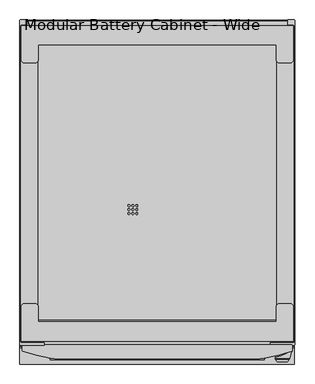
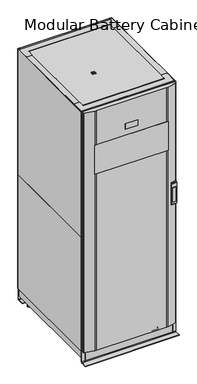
"""IFC4 building model written with IfcOpenShell, lengths in millimetres: proxy geometry, Modular_Battery_Cabinet_Wide_Galaxy_VM_Schneider_Electric_BIM_Model : Modular Battery Cabinet - Wide."""

from ifc_helpers import new_model, si_unit, point, frame, frame_2d, origin, place, context, project, spatial, polyline, circle_curve, trimmed, segment, composite_curve, outline, extrude, source, transform, mapped, element, save


def modular_battery_cabinet_wide_c1eef21c(model_context):
    return source(origin(), model_context, "Body", "SweptSolid", [
        extrude(outline(composite_curve([segment(polyline([(-287.0, -393.9954863), (-346.0, -393.9954863)]), True, "CONTINUOUS"), segment(trimmed(circle_curve(frame_2d((-346.0, -390.9954863)), 3.0), [point((-346.0, -393.9954863))], [point((-349.0, -390.9954863))], False, "CARTESIAN"), True, "CONTINUOUS"), segment(polyline([(-349.0, -390.9954863), (-349.0, 429.9032774)]), True, "CONTINUOUS"), segment(trimmed(circle_curve(frame_2d((-346.0, 429.9032774)), 3.0), [point((-349.0, 429.9032774))], [point((-346.0, 432.9032774))], False, "CARTESIAN"), True, "CONTINUOUS"), segment(polyline([(-346.0, 432.9032774), (-331.5, 432.9032774), (-331.5, 419.5937554), (-346.0, 419.5937554)]), True, "CONTINUOUS"), segment(trimmed(circle_curve(frame_2d((-346.0, 418.5937554)), 1.0), [point((-346.0, 419.5937554))], [point((-347.0, 418.5937554))], True, "CARTESIAN"), True, "CONTINUOUS"), segment(polyline([(-347.0, 418.5937554), (-347.0, -386.4062446)]), True, "CONTINUOUS"), segment(trimmed(circle_curve(frame_2d((-346.0, -386.4062446)), 1.0), [point((-347.0, -386.4062446))], [point((-346.0, -387.4062446))], True, "CARTESIAN"), True, "CONTINUOUS"), segment(polyline([(-346.0, -387.4062446), (-287.0, -387.4062446), (-287.0, -393.9954863)]), True, "CONTINUOUS")], self_intersect=False)), frame((0.0, 0.0, 984.5132886), z_axis=(0.0, 0.0, 1.0), x_axis=(1.0, 0.0, 0.0)), (0.0, 0.0, 1.0), 984.9867114),
        extrude(outline(composite_curve([segment(trimmed(circle_curve(frame_2d((282.9883937, 33.55)), 31.5), [point((314.473951, 34.5037722))], [point((251.5028364, 34.5037722))], False, "CARTESIAN"), True, "CONTINUOUS"), segment(polyline([(251.5028364, 34.5037722), (314.473951, 34.5037722)]), True, "CONTINUOUS")], self_intersect=False), holes=[composite_curve([segment(polyline([(313.2162838, 33.55), (311.2316316, 33.55)]), True, "CONTINUOUS"), segment(trimmed(circle_curve(frame_2d((282.9883937, 33.55)), 28.2432379), [point((311.2316316, 33.55))], [point((254.7451558, 33.55))], False, "CARTESIAN"), True, "CONTINUOUS"), segment(polyline([(254.7451558, 33.55), (252.7605036, 33.55)]), True, "CONTINUOUS"), segment(trimmed(circle_curve(frame_2d((282.9883937, 33.55)), 30.2278901), [point((252.7605036, 33.55))], [point((313.2162838, 33.55))], True, "CARTESIAN"), True, "CONTINUOUS")], self_intersect=False), composite_curve([segment(trimmed(circle_curve(frame_2d((282.9883937, 35.5)), 19.0), [point((301.5890489, 31.625))], [point((264.3877384, 31.625))], False, "CARTESIAN"), True, "CONTINUOUS"), segment(trimmed(circle_curve(frame_2d((282.9883937, 33.55)), 18.7), [point((264.3877384, 31.625))], [point((301.5890489, 31.625))], True, "CARTESIAN"), True, "CONTINUOUS")], self_intersect=False), composite_curve([segment(trimmed(circle_curve(frame_2d((282.9883937, 33.55)), 5.0), [point((287.9680062, 34.0010648))], [point((278.0087812, 34.0010648))], False, "CARTESIAN"), True, "CONTINUOUS"), segment(polyline([(278.0087812, 34.0010648), (271.2470547, 34.0010648)]), True, "CONTINUOUS"), segment(trimmed(circle_curve(frame_2d((282.9883937, 33.55)), 11.75), [point((271.2470547, 34.0010648))], [point((294.7297326, 34.0010648))], True, "CARTESIAN"), True, "CONTINUOUS"), segment(polyline([(294.7297326, 34.0010648), (287.9680062, 34.0010648)]), True, "CONTINUOUS")], self_intersect=False)]), frame((-262.9573706, 0.0, 0.0), z_axis=(1.0, 0.0, 0.0), x_axis=(0.0, 1.0, 0.0)), (0.0, 0.0, 1.0), 44.4573706),
        extrude(outline(composite_curve([segment(trimmed(circle_curve(frame_2d((283.0140409, 33.55)), 31.5), [point((314.4995982, 34.5037722))], [point((251.5284836, 34.5037722))], False, "CARTESIAN"), True, "CONTINUOUS"), segment(polyline([(251.5284836, 34.5037722), (314.4995982, 34.5037722)]), True, "CONTINUOUS")], self_intersect=False), holes=[composite_curve([segment(polyline([(313.241931, 33.55), (311.2572788, 33.55)]), True, "CONTINUOUS"), segment(trimmed(circle_curve(frame_2d((283.0140409, 33.55)), 28.2432379), [point((311.2572788, 33.55))], [point((254.770803, 33.55))], False, "CARTESIAN"), True, "CONTINUOUS"), segment(polyline([(254.770803, 33.55), (252.7861508, 33.55)]), True, "CONTINUOUS"), segment(trimmed(circle_curve(frame_2d((283.0140409, 33.55)), 30.2278901), [point((252.7861508, 33.55))], [point((313.241931, 33.55))], True, "CARTESIAN"), True, "CONTINUOUS")], self_intersect=False), composite_curve([segment(trimmed(circle_curve(frame_2d((283.0140409, 35.5)), 19.0), [point((301.6146961, 31.625))], [point((264.4133856, 31.625))], False, "CARTESIAN"), True, "CONTINUOUS"), segment(trimmed(circle_curve(frame_2d((283.0140409, 33.55)), 18.7), [point((264.4133856, 31.625))], [point((301.6146961, 31.625))], True, "CARTESIAN"), True, "CONTINUOUS")], self_intersect=False), composite_curve([segment(trimmed(circle_curve(frame_2d((283.0140409, 33.55)), 5.0), [point((287.9936534, 34.0010648))], [point((278.0344284, 34.0010648))], False, "CARTESIAN"), True, "CONTINUOUS"), segment(polyline([(278.0344284, 34.0010648), (271.2727019, 34.0010648)]), True, "CONTINUOUS"), segment(trimmed(circle_curve(frame_2d((283.0140409, 33.55)), 11.75), [point((271.2727019, 34.0010648))], [point((294.7553798, 34.0010648))], True, "CARTESIAN"), True, "CONTINUOUS"), segment(polyline([(294.7553798, 34.0010648), (287.9936534, 34.0010648)]), True, "CONTINUOUS")], self_intersect=False)]), frame((218.3551294, 0.0, 0.0), z_axis=(1.0, 0.0, 0.0), x_axis=(0.0, 1.0, 0.0)), (0.0, 0.0, 1.0), 44.4573706),
        extrude(outline(composite_curve([segment(polyline([(-340.0989401, 34.5037722), (-277.1278255, 34.5037722)]), True, "CONTINUOUS"), segment(trimmed(circle_curve(frame_2d((-308.6133828, 33.55)), 31.5), [point((-277.1278255, 34.5037722))], [point((-340.0989401, 34.5037722))], False, "CARTESIAN"), True, "CONTINUOUS")], self_intersect=False), holes=[composite_curve([segment(trimmed(circle_curve(frame_2d((-308.6133828, 33.55)), 30.2278901), [point((-338.8412729, 33.55))], [point((-278.3854927, 33.55))], True, "CARTESIAN"), True, "CONTINUOUS"), segment(polyline([(-278.3854927, 33.55), (-280.3701449, 33.55)]), True, "CONTINUOUS"), segment(trimmed(circle_curve(frame_2d((-308.6133828, 33.55)), 28.2432379), [point((-280.3701449, 33.55))], [point((-336.8566207, 33.55))], False, "CARTESIAN"), True, "CONTINUOUS"), segment(polyline([(-336.8566207, 33.55), (-338.8412729, 33.55)]), True, "CONTINUOUS")], self_intersect=False), composite_curve([segment(trimmed(circle_curve(frame_2d((-308.6133828, 33.55)), 18.7), [point((-327.214038, 31.625))], [point((-290.0127276, 31.625))], True, "CARTESIAN"), True, "CONTINUOUS"), segment(trimmed(circle_curve(frame_2d((-308.6133828, 35.5)), 19.0), [point((-290.0127276, 31.625))], [point((-327.214038, 31.625))], False, "CARTESIAN"), True, "CONTINUOUS")], self_intersect=False), composite_curve([segment(polyline([(-313.5929953, 34.0010648), (-320.3547217, 34.0010648)]), True, "CONTINUOUS"), segment(trimmed(circle_curve(frame_2d((-308.6133828, 33.55)), 11.75), [point((-320.3547217, 34.0010648))], [point((-296.8720438, 34.0010648))], True, "CARTESIAN"), True, "CONTINUOUS"), segment(polyline([(-296.8720438, 34.0010648), (-303.6337703, 34.0010648)]), True, "CONTINUOUS"), segment(trimmed(circle_curve(frame_2d((-308.6133828, 33.55)), 5.0), [point((-303.6337703, 34.0010648))], [point((-313.5929953, 34.0010648))], False, "CARTESIAN"), True, "CONTINUOUS")], self_intersect=False)]), frame((-262.9573706, 0.0, 0.0), z_axis=(1.0, 0.0, 0.0), x_axis=(0.0, 1.0, 0.0)), (0.0, 0.0, 1.0), 44.4573706),
        extrude(outline(composite_curve([segment(polyline([(-340.1245873, 34.5037722), (-277.1534727, 34.5037722)]), True, "CONTINUOUS"), segment(trimmed(circle_curve(frame_2d((-308.63903, 33.55)), 31.5), [point((-277.1534727, 34.5037722))], [point((-340.1245873, 34.5037722))], False, "CARTESIAN"), True, "CONTINUOUS")], self_intersect=False), holes=[composite_curve([segment(trimmed(circle_curve(frame_2d((-308.63903, 33.55)), 30.2278901), [point((-338.8669201, 33.55))], [point((-278.4111399, 33.55))], True, "CARTESIAN"), True, "CONTINUOUS"), segment(polyline([(-278.4111399, 33.55), (-280.3957921, 33.55)]), True, "CONTINUOUS"), segment(trimmed(circle_curve(frame_2d((-308.63903, 33.55)), 28.2432379), [point((-280.3957921, 33.55))], [point((-336.8822679, 33.55))], False, "CARTESIAN"), True, "CONTINUOUS"), segment(polyline([(-336.8822679, 33.55), (-338.8669201, 33.55)]), True, "CONTINUOUS")], self_intersect=False), composite_curve([segment(trimmed(circle_curve(frame_2d((-308.63903, 33.55)), 18.7), [point((-327.2396852, 31.625))], [point((-290.0383748, 31.625))], True, "CARTESIAN"), True, "CONTINUOUS"), segment(trimmed(circle_curve(frame_2d((-308.63903, 35.5)), 19.0), [point((-290.0383748, 31.625))], [point((-327.2396852, 31.625))], False, "CARTESIAN"), True, "CONTINUOUS")], self_intersect=False), composite_curve([segment(polyline([(-313.6186425, 34.0010648), (-320.3803689, 34.0010648)]), True, "CONTINUOUS"), segment(trimmed(circle_curve(frame_2d((-308.63903, 33.55)), 11.75), [point((-320.3803689, 34.0010648))], [point((-296.897691, 34.0010648))], True, "CARTESIAN"), True, "CONTINUOUS"), segment(polyline([(-296.897691, 34.0010648), (-303.6594175, 34.0010648)]), True, "CONTINUOUS"), segment(trimmed(circle_curve(frame_2d((-308.63903, 33.55)), 5.0), [point((-303.6594175, 34.0010648))], [point((-313.6186425, 34.0010648))], False, "CARTESIAN"), True, "CONTINUOUS")], self_intersect=False)]), frame((218.3551294, 0.0, 0.0), z_axis=(1.0, 0.0, 0.0), x_axis=(0.0, 1.0, 0.0)), (0.0, 0.0, 1.0), 44.4573706),
        extrude(outline(composite_curve([segment(trimmed(circle_curve(frame_2d((-340.5, -406.4999946)), 2.5), [point((-341.3593102, -408.8476713))], [point((-343.0, -406.4999946))], False, "CARTESIAN"), True, "CONTINUOUS"), segment(polyline([(-343.0, -406.4999946), (-343.0, -395.4999946)]), True, "CONTINUOUS"), segment(trimmed(circle_curve(frame_2d((-340.5, -395.4999946)), 2.5), [point((-343.0, -395.4999946))], [point((-340.5, -392.9999946))], False, "CARTESIAN"), True, "CONTINUOUS"), segment(polyline([(-340.5, -392.9999946), (342.5, -392.9999946)]), True, "CONTINUOUS"), segment(trimmed(circle_curve(frame_2d((342.5, -395.4999946)), 2.5), [point((342.5, -392.9999946))], [point((345.0, -395.4999946))], False, "CARTESIAN"), True, "CONTINUOUS"), segment(polyline([(345.0, -395.4999946), (345.0, -406.4999946)]), True, "CONTINUOUS"), segment(trimmed(circle_curve(frame_2d((342.5, -406.4999946)), 2.5), [point((345.0, -406.4999946))], [point((343.3593102, -408.8476713))], False, "CARTESIAN"), True, "CONTINUOUS"), segment(trimmed(circle_curve(frame_2d((225.461945, -86.7464275)), 343.0), [point((343.3593102, -408.8476713))], [point((272.2295665, -426.543116))], False, "CARTESIAN"), True, "CONTINUOUS"), segment(polyline([(272.2295665, -426.543116), (262.3229575, -427.9066036)]), True, "CONTINUOUS"), segment(trimmed(circle_curve(frame_2d((260.95947, -417.9999946)), 10.0), [point((262.3229575, -427.9066036))], [point((260.95947, -427.9999946))], False, "CARTESIAN"), True, "CONTINUOUS"), segment(polyline([(260.95947, -427.9999946), (-258.95947, -427.9999946)]), True, "CONTINUOUS"), segment(trimmed(circle_curve(frame_2d((-258.95947, -417.9999946)), 10.0), [point((-258.95947, -427.9999946))], [point((-260.3229575, -427.9066036))], False, "CARTESIAN"), True, "CONTINUOUS"), segment(polyline([(-260.3229575, -427.9066036), (-270.2295665, -426.543116)]), True, "CONTINUOUS"), segment(trimmed(circle_curve(frame_2d((-223.461945, -86.7464275)), 343.0), [point((-270.2295665, -426.543116))], [point((-341.3593102, -408.8476713))], False, "CARTESIAN"), True, "CONTINUOUS")], self_intersect=False)), frame((0.0, 0.0, 87.0), z_axis=(0.0, 0.0, 1.0), x_axis=(1.0, 0.0, 0.0)), (0.0, 0.0, 1.0), 1883.0),
        extrude(outline(composite_curve([segment(polyline([(289.0, -393.9954863), (289.0, -387.4062446), (348.0, -387.4062446)]), True, "CONTINUOUS"), segment(trimmed(circle_curve(frame_2d((348.0, -386.4062446)), 1.0), [point((348.0, -387.4062446))], [point((349.0, -386.4062446))], True, "CARTESIAN"), True, "CONTINUOUS"), segment(polyline([(349.0, -386.4062446), (349.0, 418.5937554)]), True, "CONTINUOUS"), segment(trimmed(circle_curve(frame_2d((348.0, 418.5937554)), 1.0), [point((349.0, 418.5937554))], [point((348.0, 419.5937554))], True, "CARTESIAN"), True, "CONTINUOUS"), segment(polyline([(348.0, 419.5937554), (333.5, 419.5937554), (333.5, 432.9032774), (348.0, 432.9032774)]), True, "CONTINUOUS"), segment(trimmed(circle_curve(frame_2d((348.0, 429.9032774)), 3.0), [point((348.0, 432.9032774))], [point((351.0, 429.9032774))], False, "CARTESIAN"), True, "CONTINUOUS"), segment(polyline([(351.0, 429.9032774), (351.0, -390.9954863)]), True, "CONTINUOUS"), segment(trimmed(circle_curve(frame_2d((348.0, -390.9954863)), 3.0), [point((351.0, -390.9954863))], [point((348.0, -393.9954863))], False, "CARTESIAN"), True, "CONTINUOUS"), segment(polyline([(348.0, -393.9954863), (289.0, -393.9954863)]), True, "CONTINUOUS")], self_intersect=False)), frame((0.0, 0.0, 984.5132886), z_axis=(0.0, 0.0, 1.0), x_axis=(1.0, 0.0, 0.0)), (0.0, 0.0, 1.0), 984.9867114),
        extrude(outline(polyline([(48.1483947, -419.9999946), (46.7495834, -428.5371612), (-44.5955575, -428.5371612), (-45.9943688, -419.9999946), (48.1483947, -419.9999946)])), frame((0.0, 0.0, 1750.6), z_axis=(0.0, 0.0, 1.0), x_axis=(1.0, 0.0, 0.0)), (0.0, 0.0, 1.0), 42.6),
        extrude(outline(polyline([(273.2655071, -428.0335818), (273.2655071, -430.0335818), (-271.4640594, -430.0335818), (-271.4640594, -428.0335818), (273.2655071, -428.0335818)])), frame((0.0, 0.0, 1477.4), z_axis=(0.0, 0.0, 1.0), x_axis=(1.0, 0.0, 0.0)), (0.0, 0.0, 1.0), 227.0),
        extrude(outline(polyline([(339.4328833, 431.8125054), (339.4328833, 430.8125054), (-336.5, 430.8125054), (-336.5, 431.8125054), (339.4328833, 431.8125054)])), frame((0.0, 0.0, 87.0), z_axis=(0.0, 0.0, 1.0), x_axis=(1.0, 0.0, 0.0)), (0.0, 0.0, 1.0), 1883.0),
        extrude(outline(composite_curve([segment(polyline([(-287.0, -392.9279748), (-346.0, -392.9279748)]), True, "CONTINUOUS"), segment(trimmed(circle_curve(frame_2d((-346.0, -389.9279748)), 3.0), [point((-346.0, -392.9279748))], [point((-349.0, -389.9279748))], False, "CARTESIAN"), True, "CONTINUOUS"), segment(polyline([(-349.0, -389.9279748), (-349.0, 429.9745566)]), True, "CONTINUOUS"), segment(trimmed(circle_curve(frame_2d((-346.0, 429.9745566)), 3.0), [point((-349.0, 429.9745566))], [point((-346.0, 432.9745566))], False, "CARTESIAN"), True, "CONTINUOUS"), segment(polyline([(-346.0, 432.9745566), (-331.5, 432.9745566), (-331.5, 419.5937554), (-346.0, 419.5937554)]), True, "CONTINUOUS"), segment(trimmed(circle_curve(frame_2d((-346.0, 418.5937554)), 1.0), [point((-346.0, 419.5937554))], [point((-347.0, 418.5937554))], True, "CARTESIAN"), True, "CONTINUOUS"), segment(polyline([(-347.0, 418.5937554), (-347.0, -386.4062446)]), True, "CONTINUOUS"), segment(trimmed(circle_curve(frame_2d((-346.0, -386.4062446)), 1.0), [point((-347.0, -386.4062446))], [point((-346.0, -387.4062446))], True, "CARTESIAN"), True, "CONTINUOUS"), segment(polyline([(-346.0, -387.4062446), (-287.0, -387.4062446), (-287.0, -392.9279748)]), True, "CONTINUOUS")], self_intersect=False)), frame((0.0, 0.0, 87.0), z_axis=(0.0, 0.0, 1.0), x_axis=(1.0, 0.0, 0.0)), (0.0, 0.0, 1.0), 897.0),
        extrude(outline(composite_curve([segment(polyline([(289.0, -392.8523013), (289.0, -387.4062446), (348.0, -387.4062446)]), True, "CONTINUOUS"), segment(trimmed(circle_curve(frame_2d((348.0, -386.4062446)), 1.0), [point((348.0, -387.4062446))], [point((349.0, -386.4062446))], True, "CARTESIAN"), True, "CONTINUOUS"), segment(polyline([(349.0, -386.4062446), (349.0, 418.5937554)]), True, "CONTINUOUS"), segment(trimmed(circle_curve(frame_2d((348.0, 418.5937554)), 1.0), [point((349.0, 418.5937554))], [point((348.0, 419.5937554))], True, "CARTESIAN"), True, "CONTINUOUS"), segment(polyline([(348.0, 419.5937554), (333.5, 419.5937554), (333.5, 432.9042309), (348.0, 432.9042309)]), True, "CONTINUOUS"), segment(trimmed(circle_curve(frame_2d((348.0, 429.9042309)), 3.0), [point((348.0, 432.9042309))], [point((351.0, 429.9042309))], False, "CARTESIAN"), True, "CONTINUOUS"), segment(polyline([(351.0, 429.9042309), (351.0, -389.8523013)]), True, "CONTINUOUS"), segment(trimmed(circle_curve(frame_2d((348.0, -389.8523013)), 3.0), [point((351.0, -389.8523013))], [point((348.0, -392.8523013))], False, "CARTESIAN"), True, "CONTINUOUS"), segment(polyline([(348.0, -392.8523013), (289.0, -392.8523013)]), True, "CONTINUOUS")], self_intersect=False)), frame((0.0, 0.0, 87.0), z_axis=(0.0, 0.0, 1.0), x_axis=(1.0, 0.0, 0.0)), (0.0, 0.0, 1.0), 897.0),
        extrude(outline(composite_curve([segment(polyline([(339.7790562, -377.4999946), (334.0055535, -387.4999946)]), True, "CONTINUOUS"), segment(trimmed(circle_curve(frame_2d((332.2735027, -386.4999946)), 2.0), [point((334.0055535, -387.4999946))], [point((332.2735027, -388.4999946))], False, "CARTESIAN"), True, "CONTINUOUS"), segment(polyline([(332.2735027, -388.4999946), (320.7264973, -388.4999946)]), True, "CONTINUOUS"), segment(trimmed(circle_curve(frame_2d((320.7264973, -386.4999946)), 2.0), [point((320.7264973, -388.4999946))], [point((318.9944465, -387.4999946))], False, "CARTESIAN"), True, "CONTINUOUS"), segment(polyline([(318.9944465, -387.4999946), (313.2209438, -377.4999946)]), True, "CONTINUOUS"), segment(trimmed(circle_curve(frame_2d((314.9529946, -376.4999946)), 2.0), [point((313.2209438, -377.4999946))], [point((313.2209438, -375.4999946))], False, "CARTESIAN"), True, "CONTINUOUS"), segment(polyline([(313.2209438, -375.4999946), (318.9944465, -365.4999946)]), True, "CONTINUOUS"), segment(trimmed(circle_curve(frame_2d((320.7264973, -366.4999946)), 2.0), [point((318.9944465, -365.4999946))], [point((320.7264973, -364.4999946))], False, "CARTESIAN"), True, "CONTINUOUS"), segment(polyline([(320.7264973, -364.4999946), (332.2735027, -364.4999946)]), True, "CONTINUOUS"), segment(trimmed(circle_curve(frame_2d((332.2735027, -366.4999946)), 2.0), [point((332.2735027, -364.4999946))], [point((334.0055535, -365.4999946))], False, "CARTESIAN"), True, "CONTINUOUS"), segment(polyline([(334.0055535, -365.4999946), (339.7790562, -375.4999946)]), True, "CONTINUOUS"), segment(trimmed(circle_curve(frame_2d((338.0470054, -376.4999946)), 2.0), [point((339.7790562, -375.4999946))], [point((339.7790562, -377.4999946))], False, "CARTESIAN"), True, "CONTINUOUS")], self_intersect=False), holes=[composite_curve([segment(trimmed(circle_curve(frame_2d((326.5, -376.4999946)), 11.0), [point((315.5, -376.4999946))], [point((337.5, -376.4999946))], True, "CARTESIAN"), True, "CONTINUOUS"), segment(trimmed(circle_curve(frame_2d((326.5, -376.4999946)), 11.0), [point((337.5, -376.4999946))], [point((315.5, -376.4999946))], True, "CARTESIAN"), True, "CONTINUOUS")], self_intersect=False)]), frame((0.0, 0.0, 2.5), z_axis=(0.0, 0.0, 1.0), x_axis=(1.0, 0.0, 0.0)), (0.0, 0.0, 1.0), 80.0),
        extrude(outline(composite_curve([segment(polyline([(-311.2209438, -377.4999946), (-316.9944465, -387.4999946)]), True, "CONTINUOUS"), segment(trimmed(circle_curve(frame_2d((-318.7264973, -386.4999946)), 2.0), [point((-316.9944465, -387.4999946))], [point((-318.7264973, -388.4999946))], False, "CARTESIAN"), True, "CONTINUOUS"), segment(polyline([(-318.7264973, -388.4999946), (-330.2735027, -388.4999946)]), True, "CONTINUOUS"), segment(trimmed(circle_curve(frame_2d((-330.2735027, -386.4999946)), 2.0), [point((-330.2735027, -388.4999946))], [point((-332.0055535, -387.4999946))], False, "CARTESIAN"), True, "CONTINUOUS"), segment(polyline([(-332.0055535, -387.4999946), (-337.7790562, -377.4999946)]), True, "CONTINUOUS"), segment(trimmed(circle_curve(frame_2d((-336.0470054, -376.4999946)), 2.0), [point((-337.7790562, -377.4999946))], [point((-337.7790562, -375.4999946))], False, "CARTESIAN"), True, "CONTINUOUS"), segment(polyline([(-337.7790562, -375.4999946), (-332.0055535, -365.4999946)]), True, "CONTINUOUS"), segment(trimmed(circle_curve(frame_2d((-330.2735027, -366.4999946)), 2.0), [point((-332.0055535, -365.4999946))], [point((-330.2735027, -364.4999946))], False, "CARTESIAN"), True, "CONTINUOUS"), segment(polyline([(-330.2735027, -364.4999946), (-318.7264973, -364.4999946)]), True, "CONTINUOUS"), segment(trimmed(circle_curve(frame_2d((-318.7264973, -366.4999946)), 2.0), [point((-318.7264973, -364.4999946))], [point((-316.9944465, -365.4999946))], False, "CARTESIAN"), True, "CONTINUOUS"), segment(polyline([(-316.9944465, -365.4999946), (-311.2209438, -375.4999946)]), True, "CONTINUOUS"), segment(trimmed(circle_curve(frame_2d((-312.9529946, -376.4999946)), 2.0), [point((-311.2209438, -375.4999946))], [point((-311.2209438, -377.4999946))], False, "CARTESIAN"), True, "CONTINUOUS")], self_intersect=False), holes=[composite_curve([segment(trimmed(circle_curve(frame_2d((-324.5, -376.4999946)), 11.0), [point((-335.5, -376.4999946))], [point((-313.5, -376.4999946))], True, "CARTESIAN"), True, "CONTINUOUS"), segment(trimmed(circle_curve(frame_2d((-324.5, -376.4999946)), 11.0), [point((-313.5, -376.4999946))], [point((-335.5, -376.4999946))], True, "CARTESIAN"), True, "CONTINUOUS")], self_intersect=False)]), frame((0.0, 0.0, 2.5), z_axis=(0.0, 0.0, 1.0), x_axis=(1.0, 0.0, 0.0)), (0.0, 0.0, 1.0), 80.0),
        extrude(outline(composite_curve([segment(polyline([(339.7790562, 324.1579781), (334.0055535, 314.1579781)]), True, "CONTINUOUS"), segment(trimmed(circle_curve(frame_2d((332.2735027, 315.1579781)), 2.0), [point((334.0055535, 314.1579781))], [point((332.2735027, 313.1579781))], False, "CARTESIAN"), True, "CONTINUOUS"), segment(polyline([(332.2735027, 313.1579781), (320.7264973, 313.1579781)]), True, "CONTINUOUS"), segment(trimmed(circle_curve(frame_2d((320.7264973, 315.1579781)), 2.0), [point((320.7264973, 313.1579781))], [point((318.9944465, 314.1579781))], False, "CARTESIAN"), True, "CONTINUOUS"), segment(polyline([(318.9944465, 314.1579781), (313.2209438, 324.1579781)]), True, "CONTINUOUS"), segment(trimmed(circle_curve(frame_2d((314.9529946, 325.1579781)), 2.0), [point((313.2209438, 324.1579781))], [point((313.2209438, 326.1579781))], False, "CARTESIAN"), True, "CONTINUOUS"), segment(polyline([(313.2209438, 326.1579781), (318.9944465, 336.1579781)]), True, "CONTINUOUS"), segment(trimmed(circle_curve(frame_2d((320.7264973, 335.1579781)), 2.0), [point((318.9944465, 336.1579781))], [point((320.7264973, 337.1579781))], False, "CARTESIAN"), True, "CONTINUOUS"), segment(polyline([(320.7264973, 337.1579781), (332.2735027, 337.1579781)]), True, "CONTINUOUS"), segment(trimmed(circle_curve(frame_2d((332.2735027, 335.1579781)), 2.0), [point((332.2735027, 337.1579781))], [point((334.0055535, 336.1579781))], False, "CARTESIAN"), True, "CONTINUOUS"), segment(polyline([(334.0055535, 336.1579781), (339.7790562, 326.1579781)]), True, "CONTINUOUS"), segment(trimmed(circle_curve(frame_2d((338.0470054, 325.1579781)), 2.0), [point((339.7790562, 326.1579781))], [point((339.7790562, 324.1579781))], False, "CARTESIAN"), True, "CONTINUOUS")], self_intersect=False), holes=[composite_curve([segment(trimmed(circle_curve(frame_2d((326.5, 325.1579781)), 11.0), [point((315.5, 325.1579781))], [point((337.5, 325.1579781))], True, "CARTESIAN"), True, "CONTINUOUS"), segment(trimmed(circle_curve(frame_2d((326.5, 325.1579781)), 11.0), [point((337.5, 325.1579781))], [point((315.5, 325.1579781))], True, "CARTESIAN"), True, "CONTINUOUS")], self_intersect=False)]), frame((0.0, 0.0, 2.5), z_axis=(0.0, 0.0, 1.0), x_axis=(1.0, 0.0, 0.0)), (0.0, 0.0, 1.0), 80.0),
        extrude(outline(composite_curve([segment(polyline([(-311.2209438, 324.1579781), (-316.9944465, 314.1579781)]), True, "CONTINUOUS"), segment(trimmed(circle_curve(frame_2d((-318.7264973, 315.1579781)), 2.0), [point((-316.9944465, 314.1579781))], [point((-318.7264973, 313.1579781))], False, "CARTESIAN"), True, "CONTINUOUS"), segment(polyline([(-318.7264973, 313.1579781), (-330.2735027, 313.1579781)]), True, "CONTINUOUS"), segment(trimmed(circle_curve(frame_2d((-330.2735027, 315.1579781)), 2.0), [point((-330.2735027, 313.1579781))], [point((-332.0055535, 314.1579781))], False, "CARTESIAN"), True, "CONTINUOUS"), segment(polyline([(-332.0055535, 314.1579781), (-337.7790562, 324.1579781)]), True, "CONTINUOUS"), segment(trimmed(circle_curve(frame_2d((-336.0470054, 325.1579781)), 2.0), [point((-337.7790562, 324.1579781))], [point((-337.7790562, 326.1579781))], False, "CARTESIAN"), True, "CONTINUOUS"), segment(polyline([(-337.7790562, 326.1579781), (-332.0055535, 336.1579781)]), True, "CONTINUOUS"), segment(trimmed(circle_curve(frame_2d((-330.2735027, 335.1579781)), 2.0), [point((-332.0055535, 336.1579781))], [point((-330.2735027, 337.1579781))], False, "CARTESIAN"), True, "CONTINUOUS"), segment(polyline([(-330.2735027, 337.1579781), (-318.7264973, 337.1579781)]), True, "CONTINUOUS"), segment(trimmed(circle_curve(frame_2d((-318.7264973, 335.1579781)), 2.0), [point((-318.7264973, 337.1579781))], [point((-316.9944465, 336.1579781))], False, "CARTESIAN"), True, "CONTINUOUS"), segment(polyline([(-316.9944465, 336.1579781), (-311.2209438, 326.1579781)]), True, "CONTINUOUS"), segment(trimmed(circle_curve(frame_2d((-312.9529946, 325.1579781)), 2.0), [point((-311.2209438, 326.1579781))], [point((-311.2209438, 324.1579781))], False, "CARTESIAN"), True, "CONTINUOUS")], self_intersect=False), holes=[composite_curve([segment(trimmed(circle_curve(frame_2d((-324.5, 325.1579781)), 11.0), [point((-335.5, 325.1579781))], [point((-313.5, 325.1579781))], True, "CARTESIAN"), True, "CONTINUOUS"), segment(trimmed(circle_curve(frame_2d((-324.5, 325.1579781)), 11.0), [point((-313.5, 325.1579781))], [point((-335.5, 325.1579781))], True, "CARTESIAN"), True, "CONTINUOUS")], self_intersect=False)]), frame((0.0, 0.0, 2.5), z_axis=(0.0, 0.0, 1.0), x_axis=(1.0, 0.0, 0.0)), (0.0, 0.0, 1.0), 80.0),
        extrude(outline(composite_curve([segment(polyline([(416.1467203, 0.0), (373.1579781, 0.0), (373.1579781, 4.0), (416.1467203, 4.0)]), True, "CONTINUOUS"), segment(trimmed(circle_curve(frame_2d((416.1467203, 8.0)), 4.0), [point((416.1467203, 4.0))], [point((420.1467203, 8.0))], True, "CARTESIAN"), True, "CONTINUOUS"), segment(polyline([(420.1467203, 8.0), (420.1467203, 89.0), (424.1467203, 89.0), (424.1467203, 8.0)]), True, "CONTINUOUS"), segment(trimmed(circle_curve(frame_2d((416.1467203, 8.0)), 8.0), [point((424.1467203, 8.0))], [point((416.1467203, 0.0))], False, "CARTESIAN"), True, "CONTINUOUS")], self_intersect=False)), frame((-349.0, 0.0, 0.0), z_axis=(1.0, 0.0, 0.0), x_axis=(0.0, 1.0, 0.0)), (0.0, 0.0, 1.0), 698.0),
        extrude(outline(polyline([(306.6070129, -434.9598318), (301.6519069, -429.0398318), (337.2270129, -429.0398318), (332.1970129, -434.9598318), (306.6070129, -434.9598318)])), frame((0.0, 0.0, 1060.0), z_axis=(0.0, 0.0, 1.0), x_axis=(1.0, 0.0, 0.0)), (0.0, 0.0, 1.0), 109.64),
        extrude(outline(polyline([(337.2270129, -426.0398318), (337.2270129, -429.0398318), (301.6519069, -429.0398318), (301.6519069, -426.0398318), (337.2270129, -426.0398318)])), frame((0.0, 0.0, 1039.417327), z_axis=(0.0, 0.0, 1.0), x_axis=(1.0, 0.0, 0.0)), (0.0, 0.0, 1.0), 160.2226701),
        extrude(outline(composite_curve([segment(polyline([(337.4728784, -426.0398318), (301.6519069, -426.0398318), (301.6519069, -423.8366136)]), True, "CONTINUOUS"), segment(trimmed(circle_curve(frame_2d((284.5186284, -325.0184002)), 100.2925149), [point((301.6519069, -423.8366136))], [point((343.575392, -406.0794094))], True, "CARTESIAN"), True, "CONTINUOUS"), segment(polyline([(343.575392, -406.0794094), (337.4728784, -426.0398318)]), True, "CONTINUOUS")], self_intersect=False)), frame((0.0, 0.0, 1033.4719298), z_axis=(0.0, 0.0, 1.0), x_axis=(1.0, 0.0, 0.0)), (0.0, 0.0, 1.0), 172.3561403),
        extrude(outline(composite_curve([segment(polyline([(-399.8420219, 0.0), (-441.8420219, 0.0), (-441.8420219, 4.0), (-399.8420219, 4.0)]), True, "CONTINUOUS"), segment(trimmed(circle_curve(frame_2d((-399.8420219, 8.0)), 4.0), [point((-399.8420219, 4.0))], [point((-395.8420219, 8.0))], True, "CARTESIAN"), True, "CONTINUOUS"), segment(polyline([(-395.8420219, 8.0), (-395.8420219, 87.0), (-391.8420219, 87.0), (-391.8420219, 8.0)]), True, "CONTINUOUS"), segment(trimmed(circle_curve(frame_2d((-399.8420219, 8.0)), 8.0), [point((-391.8420219, 8.0))], [point((-399.8420219, 0.0))], False, "CARTESIAN"), True, "CONTINUOUS")], self_intersect=False)), frame((-349.0, 0.0, 0.0), z_axis=(1.0, 0.0, 0.0), x_axis=(0.0, 1.0, 0.0)), (0.0, 0.0, 1.0), 698.0),
        extrude(outline(polyline([(-340.5, -288.9999946), (-307.0, -288.9999946), (-302.0, -293.9999946), (-302.0, -333.9999946), (304.0, -333.9999946), (304.0, -293.9999946), (309.0, -288.9999946), (342.5, -288.9999946), (347.5, -293.9999946), (347.5, -382.9999946), (-345.5, -382.9999946), (-345.5, -293.9999946), (-340.5, -288.9999946)])), frame((0.0, 0.0, 1965.0), z_axis=(0.0, 0.0, 1.0), x_axis=(1.0, 0.0, 0.0)), (0.0, 0.0, 1.0), 5.0),
        extrude(outline(polyline([(-340.5, 324.0000054), (-345.5, 329.0000054), (-345.5, 418.0000054), (347.5, 418.0000054), (347.5, 329.0000054), (342.5, 324.0000054), (309.0, 324.0000054), (304.0, 329.0000054), (304.0, 369.0000054), (-302.0, 369.0000054), (-302.0, 329.0000054), (-307.0, 324.0000054), (-340.5, 324.0000054)])), frame((0.0, 0.0, 1965.0), z_axis=(0.0, 0.0, 1.0), x_axis=(1.0, 0.0, 0.0)), (0.0, 0.0, 1.0), 5.0),
        extrude(outline(polyline([(304.0, 374.0000054), (304.0, -328.9999946), (-302.0, -328.9999946), (-302.0, 374.0000054), (304.0, 374.0000054)]), holes=[composite_curve([segment(trimmed(circle_curve(frame_2d((-71.0666353, -39.2766072)), 2.5), [point((-73.5666353, -39.2766072))], [point((-68.5666353, -39.2766072))], True, "CARTESIAN"), True, "CONTINUOUS"), segment(trimmed(circle_curve(frame_2d((-71.0666353, -39.2766072)), 2.5), [point((-68.5666353, -39.2766072))], [point((-73.5666353, -39.2766072))], True, "CARTESIAN"), True, "CONTINUOUS")], self_intersect=False), composite_curve([segment(trimmed(circle_curve(frame_2d((-61.0666353, -39.2766072)), 2.5), [point((-63.5666353, -39.2766072))], [point((-58.5666353, -39.2766072))], True, "CARTESIAN"), True, "CONTINUOUS"), segment(trimmed(circle_curve(frame_2d((-61.0666353, -39.2766072)), 2.5), [point((-58.5666353, -39.2766072))], [point((-63.5666353, -39.2766072))], True, "CARTESIAN"), True, "CONTINUOUS")], self_intersect=False), composite_curve([segment(trimmed(circle_curve(frame_2d((-51.0666353, -39.2766072)), 2.5), [point((-53.5666353, -39.2766072))], [point((-48.5666353, -39.2766072))], True, "CARTESIAN"), True, "CONTINUOUS"), segment(trimmed(circle_curve(frame_2d((-51.0666353, -39.2766072)), 2.5), [point((-48.5666353, -39.2766072))], [point((-53.5666353, -39.2766072))], True, "CARTESIAN"), True, "CONTINUOUS")], self_intersect=False), composite_curve([segment(trimmed(circle_curve(frame_2d((-71.0666353, -49.2766072)), 2.5), [point((-73.5666353, -49.2766072))], [point((-68.5666353, -49.2766072))], True, "CARTESIAN"), True, "CONTINUOUS"), segment(trimmed(circle_curve(frame_2d((-71.0666353, -49.2766072)), 2.5), [point((-68.5666353, -49.2766072))], [point((-73.5666353, -49.2766072))], True, "CARTESIAN"), True, "CONTINUOUS")], self_intersect=False), composite_curve([segment(trimmed(circle_curve(frame_2d((-61.0666353, -49.2766072)), 2.5), [point((-63.5666353, -49.2766072))], [point((-58.5666353, -49.2766072))], True, "CARTESIAN"), True, "CONTINUOUS"), segment(trimmed(circle_curve(frame_2d((-61.0666353, -49.2766072)), 2.5), [point((-58.5666353, -49.2766072))], [point((-63.5666353, -49.2766072))], True, "CARTESIAN"), True, "CONTINUOUS")], self_intersect=False), composite_curve([segment(trimmed(circle_curve(frame_2d((-51.0666353, -49.2766072)), 2.5), [point((-53.5666353, -49.2766072))], [point((-48.5666353, -49.2766072))], True, "CARTESIAN"), True, "CONTINUOUS"), segment(trimmed(circle_curve(frame_2d((-51.0666353, -49.2766072)), 2.5), [point((-48.5666353, -49.2766072))], [point((-53.5666353, -49.2766072))], True, "CARTESIAN"), True, "CONTINUOUS")], self_intersect=False), composite_curve([segment(trimmed(circle_curve(frame_2d((-71.0666353, -59.2766072)), 2.5), [point((-73.5666353, -59.2766072))], [point((-68.5666353, -59.2766072))], True, "CARTESIAN"), True, "CONTINUOUS"), segment(trimmed(circle_curve(frame_2d((-71.0666353, -59.2766072)), 2.5), [point((-68.5666353, -59.2766072))], [point((-73.5666353, -59.2766072))], True, "CARTESIAN"), True, "CONTINUOUS")], self_intersect=False), composite_curve([segment(trimmed(circle_curve(frame_2d((-61.0666353, -59.2766072)), 2.5), [point((-63.5666353, -59.2766072))], [point((-58.5666353, -59.2766072))], True, "CARTESIAN"), True, "CONTINUOUS"), segment(trimmed(circle_curve(frame_2d((-61.0666353, -59.2766072)), 2.5), [point((-58.5666353, -59.2766072))], [point((-63.5666353, -59.2766072))], True, "CARTESIAN"), True, "CONTINUOUS")], self_intersect=False), composite_curve([segment(trimmed(circle_curve(frame_2d((-51.0666353, -59.2766072)), 2.5), [point((-53.5666353, -59.2766072))], [point((-48.5666353, -59.2766072))], True, "CARTESIAN"), True, "CONTINUOUS"), segment(trimmed(circle_curve(frame_2d((-51.0666353, -59.2766072)), 2.5), [point((-48.5666353, -59.2766072))], [point((-53.5666353, -59.2766072))], True, "CARTESIAN"), True, "CONTINUOUS")], self_intersect=False)]), frame((0.0, 0.0, 1968.0), z_axis=(0.0, 0.0, 1.0), x_axis=(1.0, 0.0, 0.0)), (0.0, 0.0, 1.0), 2.0),
        extrude(outline(polyline([(347.0, -391.8420219), (-346.0, -391.8420219), (-346.0, 420.3737537), (347.0, 420.3737537), (347.0, -391.8420219)]), holes=[polyline([(-301.0, 150.0000054), (-301.0, 145.5000054), (304.0, 145.5000054), (304.0, 150.0000054), (319.0, 150.0000054), (324.0, 155.0000054), (324.0, 181.0000054), (319.0, 186.0000054), (304.0, 186.0000054), (304.0, 190.5000054), (-301.0, 190.5000054), (-301.0, 186.0000054), (-316.0, 186.0000054), (-321.0, 181.0000054), (-321.0, 155.0000054), (-316.0, 150.0000054), (-301.0, 150.0000054)]), polyline([(-301.0, -236.9999946), (-301.0, -241.4999946), (304.0, -241.4999946), (304.0, -236.9999946), (319.0, -236.9999946), (324.0, -231.9999946), (324.0, -205.9999946), (319.0, -200.9999946), (304.0, -200.9999946), (304.0, -196.4999946), (-301.0, -196.4999946), (-301.0, -200.9999946), (-316.0, -200.9999946), (-321.0, -205.9999946), (-321.0, -231.9999946), (-316.0, -236.9999946), (-301.0, -236.9999946)]), composite_curve([segment(trimmed(circle_curve(frame_2d((-268.0, 119.5000054)), 2.5), [point((-270.5, 119.5000054))], [point((-265.5, 119.5000054))], True, "CARTESIAN"), True, "CONTINUOUS"), segment(trimmed(circle_curve(frame_2d((-268.0, 119.5000054)), 2.5), [point((-265.5, 119.5000054))], [point((-270.5, 119.5000054))], True, "CARTESIAN"), True, "CONTINUOUS")], self_intersect=False), composite_curve([segment(trimmed(circle_curve(frame_2d((-268.0, 109.5000054)), 2.5), [point((-270.5, 109.5000054))], [point((-265.5, 109.5000054))], True, "CARTESIAN"), True, "CONTINUOUS"), segment(trimmed(circle_curve(frame_2d((-268.0, 109.5000054)), 2.5), [point((-265.5, 109.5000054))], [point((-270.5, 109.5000054))], True, "CARTESIAN"), True, "CONTINUOUS")], self_intersect=False), composite_curve([segment(trimmed(circle_curve(frame_2d((-258.0, 119.5000054)), 2.5), [point((-260.5, 119.5000054))], [point((-255.5, 119.5000054))], True, "CARTESIAN"), True, "CONTINUOUS"), segment(trimmed(circle_curve(frame_2d((-258.0, 119.5000054)), 2.5), [point((-255.5, 119.5000054))], [point((-260.5, 119.5000054))], True, "CARTESIAN"), True, "CONTINUOUS")], self_intersect=False), composite_curve([segment(trimmed(circle_curve(frame_2d((-248.0, 119.5000054)), 2.5), [point((-250.5, 119.5000054))], [point((-245.5, 119.5000054))], True, "CARTESIAN"), True, "CONTINUOUS"), segment(trimmed(circle_curve(frame_2d((-248.0, 119.5000054)), 2.5), [point((-245.5, 119.5000054))], [point((-250.5, 119.5000054))], True, "CARTESIAN"), True, "CONTINUOUS")], self_intersect=False), composite_curve([segment(trimmed(circle_curve(frame_2d((-238.0, 119.5000054)), 2.5), [point((-240.5, 119.5000054))], [point((-235.5, 119.5000054))], True, "CARTESIAN"), True, "CONTINUOUS"), segment(trimmed(circle_curve(frame_2d((-238.0, 119.5000054)), 2.5), [point((-235.5, 119.5000054))], [point((-240.5, 119.5000054))], True, "CARTESIAN"), True, "CONTINUOUS")], self_intersect=False), composite_curve([segment(trimmed(circle_curve(frame_2d((-268.0, 99.5000054)), 2.5), [point((-270.5, 99.5000054))], [point((-265.5, 99.5000054))], True, "CARTESIAN"), True, "CONTINUOUS"), segment(trimmed(circle_curve(frame_2d((-268.0, 99.5000054)), 2.5), [point((-265.5, 99.5000054))], [point((-270.5, 99.5000054))], True, "CARTESIAN"), True, "CONTINUOUS")], self_intersect=False), composite_curve([segment(trimmed(circle_curve(frame_2d((-268.0, 89.5000054)), 2.5), [point((-270.5, 89.5000054))], [point((-265.5, 89.5000054))], True, "CARTESIAN"), True, "CONTINUOUS"), segment(trimmed(circle_curve(frame_2d((-268.0, 89.5000054)), 2.5), [point((-265.5, 89.5000054))], [point((-270.5, 89.5000054))], True, "CARTESIAN"), True, "CONTINUOUS")], self_intersect=False), composite_curve([segment(trimmed(circle_curve(frame_2d((-258.0, 109.5000054)), 2.5), [point((-260.5, 109.5000054))], [point((-255.5, 109.5000054))], True, "CARTESIAN"), True, "CONTINUOUS"), segment(trimmed(circle_curve(frame_2d((-258.0, 109.5000054)), 2.5), [point((-255.5, 109.5000054))], [point((-260.5, 109.5000054))], True, "CARTESIAN"), True, "CONTINUOUS")], self_intersect=False), composite_curve([segment(trimmed(circle_curve(frame_2d((-258.0, 99.5000054)), 2.5), [point((-260.5, 99.5000054))], [point((-255.5, 99.5000054))], True, "CARTESIAN"), True, "CONTINUOUS"), segment(trimmed(circle_curve(frame_2d((-258.0, 99.5000054)), 2.5), [point((-255.5, 99.5000054))], [point((-260.5, 99.5000054))], True, "CARTESIAN"), True, "CONTINUOUS")], self_intersect=False), composite_curve([segment(trimmed(circle_curve(frame_2d((-248.0, 109.5000054)), 2.5), [point((-250.5, 109.5000054))], [point((-245.5, 109.5000054))], True, "CARTESIAN"), True, "CONTINUOUS"), segment(trimmed(circle_curve(frame_2d((-248.0, 109.5000054)), 2.5), [point((-245.5, 109.5000054))], [point((-250.5, 109.5000054))], True, "CARTESIAN"), True, "CONTINUOUS")], self_intersect=False), composite_curve([segment(trimmed(circle_curve(frame_2d((274.0, 119.5000054)), 2.5), [point((271.5, 119.5000054))], [point((276.5, 119.5000054))], True, "CARTESIAN"), True, "CONTINUOUS"), segment(trimmed(circle_curve(frame_2d((274.0, 119.5000054)), 2.5), [point((276.5, 119.5000054))], [point((271.5, 119.5000054))], True, "CARTESIAN"), True, "CONTINUOUS")], self_intersect=False), composite_curve([segment(trimmed(circle_curve(frame_2d((274.0, 109.5000054)), 2.5), [point((271.5, 109.5000054))], [point((276.5, 109.5000054))], True, "CARTESIAN"), True, "CONTINUOUS"), segment(trimmed(circle_curve(frame_2d((274.0, 109.5000054)), 2.5), [point((276.5, 109.5000054))], [point((271.5, 109.5000054))], True, "CARTESIAN"), True, "CONTINUOUS")], self_intersect=False), composite_curve([segment(trimmed(circle_curve(frame_2d((264.0, 119.5000054)), 2.5), [point((261.5, 119.5000054))], [point((266.5, 119.5000054))], True, "CARTESIAN"), True, "CONTINUOUS"), segment(trimmed(circle_curve(frame_2d((264.0, 119.5000054)), 2.5), [point((266.5, 119.5000054))], [point((261.5, 119.5000054))], True, "CARTESIAN"), True, "CONTINUOUS")], self_intersect=False), composite_curve([segment(trimmed(circle_curve(frame_2d((254.0, 119.5000054)), 2.5), [point((251.5, 119.5000054))], [point((256.5, 119.5000054))], True, "CARTESIAN"), True, "CONTINUOUS"), segment(trimmed(circle_curve(frame_2d((254.0, 119.5000054)), 2.5), [point((256.5, 119.5000054))], [point((251.5, 119.5000054))], True, "CARTESIAN"), True, "CONTINUOUS")], self_intersect=False), composite_curve([segment(trimmed(circle_curve(frame_2d((244.0, 119.5000054)), 2.5), [point((241.5, 119.5000054))], [point((246.5, 119.5000054))], True, "CARTESIAN"), True, "CONTINUOUS"), segment(trimmed(circle_curve(frame_2d((244.0, 119.5000054)), 2.5), [point((246.5, 119.5000054))], [point((241.5, 119.5000054))], True, "CARTESIAN"), True, "CONTINUOUS")], self_intersect=False), composite_curve([segment(trimmed(circle_curve(frame_2d((274.0, 99.5000054)), 2.5), [point((271.5, 99.5000054))], [point((276.5, 99.5000054))], True, "CARTESIAN"), True, "CONTINUOUS"), segment(trimmed(circle_curve(frame_2d((274.0, 99.5000054)), 2.5), [point((276.5, 99.5000054))], [point((271.5, 99.5000054))], True, "CARTESIAN"), True, "CONTINUOUS")], self_intersect=False), composite_curve([segment(trimmed(circle_curve(frame_2d((274.0, 89.5000054)), 2.5), [point((271.5, 89.5000054))], [point((276.5, 89.5000054))], True, "CARTESIAN"), True, "CONTINUOUS"), segment(trimmed(circle_curve(frame_2d((274.0, 89.5000054)), 2.5), [point((276.5, 89.5000054))], [point((271.5, 89.5000054))], True, "CARTESIAN"), True, "CONTINUOUS")], self_intersect=False), composite_curve([segment(trimmed(circle_curve(frame_2d((264.0, 109.5000054)), 2.5), [point((261.5, 109.5000054))], [point((266.5, 109.5000054))], True, "CARTESIAN"), True, "CONTINUOUS"), segment(trimmed(circle_curve(frame_2d((264.0, 109.5000054)), 2.5), [point((266.5, 109.5000054))], [point((261.5, 109.5000054))], True, "CARTESIAN"), True, "CONTINUOUS")], self_intersect=False), composite_curve([segment(trimmed(circle_curve(frame_2d((264.0, 99.5000054)), 2.5), [point((261.5, 99.5000054))], [point((266.5, 99.5000054))], True, "CARTESIAN"), True, "CONTINUOUS"), segment(trimmed(circle_curve(frame_2d((264.0, 99.5000054)), 2.5), [point((266.5, 99.5000054))], [point((261.5, 99.5000054))], True, "CARTESIAN"), True, "CONTINUOUS")], self_intersect=False), composite_curve([segment(trimmed(circle_curve(frame_2d((254.0, 109.5000054)), 2.5), [point((251.5, 109.5000054))], [point((256.5, 109.5000054))], True, "CARTESIAN"), True, "CONTINUOUS"), segment(trimmed(circle_curve(frame_2d((254.0, 109.5000054)), 2.5), [point((256.5, 109.5000054))], [point((251.5, 109.5000054))], True, "CARTESIAN"), True, "CONTINUOUS")], self_intersect=False), composite_curve([segment(trimmed(circle_curve(frame_2d((-268.0, -170.4999946)), 2.5), [point((-270.5, -170.4999946))], [point((-265.5, -170.4999946))], True, "CARTESIAN"), True, "CONTINUOUS"), segment(trimmed(circle_curve(frame_2d((-268.0, -170.4999946)), 2.5), [point((-265.5, -170.4999946))], [point((-270.5, -170.4999946))], True, "CARTESIAN"), True, "CONTINUOUS")], self_intersect=False), composite_curve([segment(trimmed(circle_curve(frame_2d((-268.0, -160.4999946)), 2.5), [point((-270.5, -160.4999946))], [point((-265.5, -160.4999946))], True, "CARTESIAN"), True, "CONTINUOUS"), segment(trimmed(circle_curve(frame_2d((-268.0, -160.4999946)), 2.5), [point((-265.5, -160.4999946))], [point((-270.5, -160.4999946))], True, "CARTESIAN"), True, "CONTINUOUS")], self_intersect=False), composite_curve([segment(trimmed(circle_curve(frame_2d((-258.0, -170.4999946)), 2.5), [point((-260.5, -170.4999946))], [point((-255.5, -170.4999946))], True, "CARTESIAN"), True, "CONTINUOUS"), segment(trimmed(circle_curve(frame_2d((-258.0, -170.4999946)), 2.5), [point((-255.5, -170.4999946))], [point((-260.5, -170.4999946))], True, "CARTESIAN"), True, "CONTINUOUS")], self_intersect=False), composite_curve([segment(trimmed(circle_curve(frame_2d((-248.0, -170.4999946)), 2.5), [point((-250.5, -170.4999946))], [point((-245.5, -170.4999946))], True, "CARTESIAN"), True, "CONTINUOUS"), segment(trimmed(circle_curve(frame_2d((-248.0, -170.4999946)), 2.5), [point((-245.5, -170.4999946))], [point((-250.5, -170.4999946))], True, "CARTESIAN"), True, "CONTINUOUS")], self_intersect=False), composite_curve([segment(trimmed(circle_curve(frame_2d((-238.0, -170.4999946)), 2.5), [point((-240.5, -170.4999946))], [point((-235.5, -170.4999946))], True, "CARTESIAN"), True, "CONTINUOUS"), segment(trimmed(circle_curve(frame_2d((-238.0, -170.4999946)), 2.5), [point((-235.5, -170.4999946))], [point((-240.5, -170.4999946))], True, "CARTESIAN"), True, "CONTINUOUS")], self_intersect=False), composite_curve([segment(trimmed(circle_curve(frame_2d((-268.0, -150.4999946)), 2.5), [point((-270.5, -150.4999946))], [point((-265.5, -150.4999946))], True, "CARTESIAN"), True, "CONTINUOUS"), segment(trimmed(circle_curve(frame_2d((-268.0, -150.4999946)), 2.5), [point((-265.5, -150.4999946))], [point((-270.5, -150.4999946))], True, "CARTESIAN"), True, "CONTINUOUS")], self_intersect=False), composite_curve([segment(trimmed(circle_curve(frame_2d((-268.0, -140.4999946)), 2.5), [point((-270.5, -140.4999946))], [point((-265.5, -140.4999946))], True, "CARTESIAN"), True, "CONTINUOUS"), segment(trimmed(circle_curve(frame_2d((-268.0, -140.4999946)), 2.5), [point((-265.5, -140.4999946))], [point((-270.5, -140.4999946))], True, "CARTESIAN"), True, "CONTINUOUS")], self_intersect=False), composite_curve([segment(trimmed(circle_curve(frame_2d((-258.0, -160.4999946)), 2.5), [point((-260.5, -160.4999946))], [point((-255.5, -160.4999946))], True, "CARTESIAN"), True, "CONTINUOUS"), segment(trimmed(circle_curve(frame_2d((-258.0, -160.4999946)), 2.5), [point((-255.5, -160.4999946))], [point((-260.5, -160.4999946))], True, "CARTESIAN"), True, "CONTINUOUS")], self_intersect=False), composite_curve([segment(trimmed(circle_curve(frame_2d((-258.0, -150.4999946)), 2.5), [point((-260.5, -150.4999946))], [point((-255.5, -150.4999946))], True, "CARTESIAN"), True, "CONTINUOUS"), segment(trimmed(circle_curve(frame_2d((-258.0, -150.4999946)), 2.5), [point((-255.5, -150.4999946))], [point((-260.5, -150.4999946))], True, "CARTESIAN"), True, "CONTINUOUS")], self_intersect=False), composite_curve([segment(trimmed(circle_curve(frame_2d((-248.0, -160.4999946)), 2.5), [point((-250.5, -160.4999946))], [point((-245.5, -160.4999946))], True, "CARTESIAN"), True, "CONTINUOUS"), segment(trimmed(circle_curve(frame_2d((-248.0, -160.4999946)), 2.5), [point((-245.5, -160.4999946))], [point((-250.5, -160.4999946))], True, "CARTESIAN"), True, "CONTINUOUS")], self_intersect=False), composite_curve([segment(trimmed(circle_curve(frame_2d((274.0, -170.4999946)), 2.5), [point((271.5, -170.4999946))], [point((276.5, -170.4999946))], True, "CARTESIAN"), True, "CONTINUOUS"), segment(trimmed(circle_curve(frame_2d((274.0, -170.4999946)), 2.5), [point((276.5, -170.4999946))], [point((271.5, -170.4999946))], True, "CARTESIAN"), True, "CONTINUOUS")], self_intersect=False), composite_curve([segment(trimmed(circle_curve(frame_2d((274.0, -160.4999946)), 2.5), [point((271.5, -160.4999946))], [point((276.5, -160.4999946))], True, "CARTESIAN"), True, "CONTINUOUS"), segment(trimmed(circle_curve(frame_2d((274.0, -160.4999946)), 2.5), [point((276.5, -160.4999946))], [point((271.5, -160.4999946))], True, "CARTESIAN"), True, "CONTINUOUS")], self_intersect=False), composite_curve([segment(trimmed(circle_curve(frame_2d((264.0, -170.4999946)), 2.5), [point((261.5, -170.4999946))], [point((266.5, -170.4999946))], True, "CARTESIAN"), True, "CONTINUOUS"), segment(trimmed(circle_curve(frame_2d((264.0, -170.4999946)), 2.5), [point((266.5, -170.4999946))], [point((261.5, -170.4999946))], True, "CARTESIAN"), True, "CONTINUOUS")], self_intersect=False), composite_curve([segment(trimmed(circle_curve(frame_2d((254.0, -170.4999946)), 2.5), [point((251.5, -170.4999946))], [point((256.5, -170.4999946))], True, "CARTESIAN"), True, "CONTINUOUS"), segment(trimmed(circle_curve(frame_2d((254.0, -170.4999946)), 2.5), [point((256.5, -170.4999946))], [point((251.5, -170.4999946))], True, "CARTESIAN"), True, "CONTINUOUS")], self_intersect=False), composite_curve([segment(trimmed(circle_curve(frame_2d((244.0, -170.4999946)), 2.5), [point((241.5, -170.4999946))], [point((246.5, -170.4999946))], True, "CARTESIAN"), True, "CONTINUOUS"), segment(trimmed(circle_curve(frame_2d((244.0, -170.4999946)), 2.5), [point((246.5, -170.4999946))], [point((241.5, -170.4999946))], True, "CARTESIAN"), True, "CONTINUOUS")], self_intersect=False), composite_curve([segment(trimmed(circle_curve(frame_2d((274.0, -150.4999946)), 2.5), [point((271.5, -150.4999946))], [point((276.5, -150.4999946))], True, "CARTESIAN"), True, "CONTINUOUS"), segment(trimmed(circle_curve(frame_2d((274.0, -150.4999946)), 2.5), [point((276.5, -150.4999946))], [point((271.5, -150.4999946))], True, "CARTESIAN"), True, "CONTINUOUS")], self_intersect=False), composite_curve([segment(trimmed(circle_curve(frame_2d((274.0, -140.4999946)), 2.5), [point((271.5, -140.4999946))], [point((276.5, -140.4999946))], True, "CARTESIAN"), True, "CONTINUOUS"), segment(trimmed(circle_curve(frame_2d((274.0, -140.4999946)), 2.5), [point((276.5, -140.4999946))], [point((271.5, -140.4999946))], True, "CARTESIAN"), True, "CONTINUOUS")], self_intersect=False), composite_curve([segment(trimmed(circle_curve(frame_2d((264.0, -160.4999946)), 2.5), [point((261.5, -160.4999946))], [point((266.5, -160.4999946))], True, "CARTESIAN"), True, "CONTINUOUS"), segment(trimmed(circle_curve(frame_2d((264.0, -160.4999946)), 2.5), [point((266.5, -160.4999946))], [point((261.5, -160.4999946))], True, "CARTESIAN"), True, "CONTINUOUS")], self_intersect=False), composite_curve([segment(trimmed(circle_curve(frame_2d((264.0, -150.4999946)), 2.5), [point((261.5, -150.4999946))], [point((266.5, -150.4999946))], True, "CARTESIAN"), True, "CONTINUOUS"), segment(trimmed(circle_curve(frame_2d((264.0, -150.4999946)), 2.5), [point((266.5, -150.4999946))], [point((261.5, -150.4999946))], True, "CARTESIAN"), True, "CONTINUOUS")], self_intersect=False), composite_curve([segment(trimmed(circle_curve(frame_2d((254.0, -160.4999946)), 2.5), [point((251.5, -160.4999946))], [point((256.5, -160.4999946))], True, "CARTESIAN"), True, "CONTINUOUS"), segment(trimmed(circle_curve(frame_2d((254.0, -160.4999946)), 2.5), [point((256.5, -160.4999946))], [point((251.5, -160.4999946))], True, "CARTESIAN"), True, "CONTINUOUS")], self_intersect=False)]), frame((0.0, 0.0, 32.5), z_axis=(0.0, 0.0, 1.0), x_axis=(1.0, 0.0, 0.0)), (0.0, 0.0, 1.0), 54.5),
        extrude(outline(polyline([(349.0, 430.8125054), (349.0, -382.9999946), (-347.0, -382.9999946), (-347.0, 430.8125054), (349.0, 430.8125054)])), frame((0.0, 0.0, 1950.0), z_axis=(0.0, 0.0, 1.0), x_axis=(1.0, 0.0, 0.0)), (0.0, 0.0, 1.0), 20.0),
    ])


if __name__ == "__main__":
    model = new_model("IFC4")
    model_context = context("Model", 3, world=origin())
    ifc_project = project(units=[si_unit("LENGTHUNIT", "METRE", prefix="MILLI")], contexts=[model_context])
    site = spatial("IfcSite", under=ifc_project)
    building = spatial("IfcBuilding", under=site)
    placement = place(None, origin())
    modular_battery_cabinet_wide_shape = modular_battery_cabinet_wide_c1eef21c(model_context)
    element("IfcBuildingElementProxy", 1, Name="Modular_Battery_Cabinet_Wide_Galaxy_VM_Schneider_Electric_BIM_Model : Modular Battery Cabinet - Wide", ObjectType="Modular_Battery_Cabinet_Wide_Galaxy_VM_Schneider_Electric_BIM_Model : Modular Battery Cabinet - Wide", at=placement, inside=building, context=model_context, shape_type="MappedRepresentation", body=[
        mapped(modular_battery_cabinet_wide_shape, transform((0.0, 0.0, 0.0), x_axis=(1.0, 0.0, 0.0), y_axis=(0.0, 1.0, 0.0), z_axis=(0.0, 0.0, 1.0))),
    ])
    save(model, "model.ifc")
